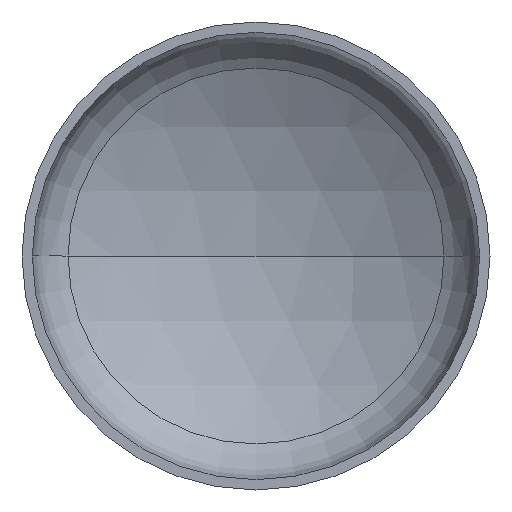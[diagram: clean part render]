
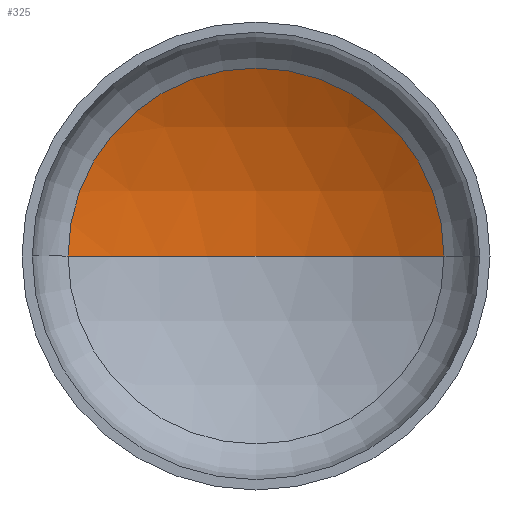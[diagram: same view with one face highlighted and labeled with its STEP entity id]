
A CAD part, front view. The second image highlights one B-rep face of the part: STEP entity #325.
In plain terms, the highlighted spherical face has radius 2400 mm.
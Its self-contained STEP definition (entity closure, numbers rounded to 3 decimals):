
#4 = CARTESIAN_POINT ( 'NONE',  ( 0., 517.823, 0. ) ) ;
#10 = VERTEX_POINT ( 'NONE', #298 ) ;
#13 = EDGE_LOOP ( 'NONE', ( #139, #101, #113 ) ) ;
#24 = AXIS2_PLACEMENT_3D ( 'NONE', #157, #89, #153 ) ;
#46 = AXIS2_PLACEMENT_3D ( 'NONE', #222, #266, #263 ) ;
#50 = AXIS2_PLACEMENT_3D ( 'NONE', #192, #207, #210 ) ;
#55 = AXIS2_PLACEMENT_3D ( 'NONE', #4, #393, #164 ) ;
#60 = VERTEX_POINT ( 'NONE', #373 ) ;
#89 = DIRECTION ( 'NONE',  ( 0., 0., -1. ) ) ;
#101 = ORIENTED_EDGE ( 'NONE', *, *, #155, .T. ) ;
#112 = VERTEX_POINT ( 'NONE', #303 ) ;
#113 = ORIENTED_EDGE ( 'NONE', *, *, #146, .T. ) ;
#139 = ORIENTED_EDGE ( 'NONE', *, *, #161, .F. ) ;
#146 = EDGE_CURVE ( 'NONE', #10, #60, #305, .T. ) ;
#153 = DIRECTION ( 'NONE',  ( -1., 0., 0. ) ) ;
#155 = EDGE_CURVE ( 'NONE', #112, #10, #174, .T. ) ;
#156 = FACE_OUTER_BOUND ( 'NONE', #13, .T. ) ;
#157 = CARTESIAN_POINT ( 'NONE',  ( 0., -1557.774, 0. ) ) ;
#161 = EDGE_CURVE ( 'NONE', #112, #60, #185, .T. ) ;
#164 = DIRECTION ( 'NONE',  ( 1., 0., 0. ) ) ;
#174 = CIRCLE ( 'NONE', #50, 2400. ) ;
#185 = CIRCLE ( 'NONE', #46, 2400. ) ;
#192 = CARTESIAN_POINT ( 'NONE',  ( 0., -1557.774, 0. ) ) ;
#207 = DIRECTION ( 'NONE',  ( 0., 0., -1. ) ) ;
#210 = DIRECTION ( 'NONE',  ( -1., 0., 0. ) ) ;
#222 = CARTESIAN_POINT ( 'NONE',  ( 0., -1557.774, 0. ) ) ;
#263 = DIRECTION ( 'NONE',  ( 1., 0., 0. ) ) ;
#266 = DIRECTION ( 'NONE',  ( 0., 0., 1. ) ) ;
#298 = CARTESIAN_POINT ( 'NONE',  ( 1204.948, 517.823, 0. ) ) ;
#303 = CARTESIAN_POINT ( 'NONE',  ( 0., 842.226, 0. ) ) ;
#305 = CIRCLE ( 'NONE', #55, 1204.948 ) ;
#325 = ADVANCED_FACE ( 'NONE', ( #156 ), #388, .F. ) ;
#373 = CARTESIAN_POINT ( 'NONE',  ( -1204.948, 517.823, 0. ) ) ;
#388 = SPHERICAL_SURFACE ( 'NONE', #24, 2400. ) ;
#393 = DIRECTION ( 'NONE',  ( 0., -1., 0. ) ) ;
